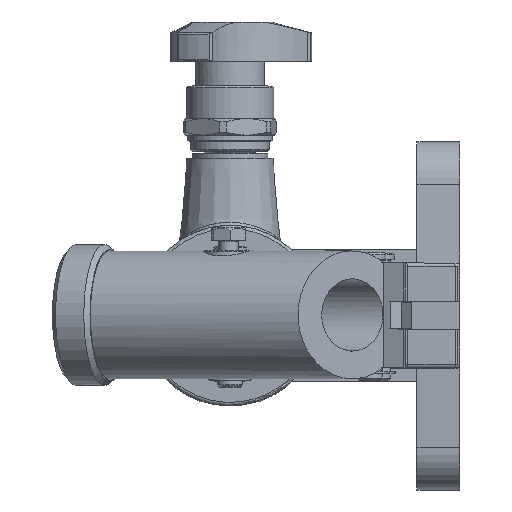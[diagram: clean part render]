
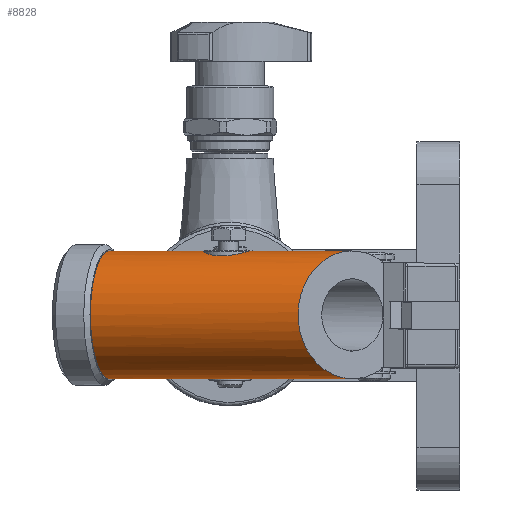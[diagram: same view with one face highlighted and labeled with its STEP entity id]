
A CAD part, top view. The second image highlights one B-rep face of the part: STEP entity #8828.
In plain terms, the highlighted cylindrical face has radius 19.48 mm (diameter 38.961 mm), a partial arc.
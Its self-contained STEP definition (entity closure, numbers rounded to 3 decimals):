
#46=ELLIPSE('',#12971,20.731,19.481);
#47=ELLIPSE('',#12976,20.731,19.481);
#48=ELLIPSE('',#12979,20.731,19.481);
#49=ELLIPSE('',#12982,22.494,19.481);
#50=ELLIPSE('',#12985,20.731,19.481);
#67=B_SPLINE_CURVE_WITH_KNOTS('',3,(#17350,#17351,#17352,#17353,#17354,
#17355),.UNSPECIFIED.,.F.,.F.,(4,1,1,4),(0.039,0.043,
0.045,0.047),.UNSPECIFIED.);
#68=B_SPLINE_CURVE_WITH_KNOTS('',3,(#17357,#17358,#17359,#17360,#17361),
 .UNSPECIFIED.,.F.,.F.,(4,1,4),(0.,0.004,0.009),
 .UNSPECIFIED.);
#69=B_SPLINE_CURVE_WITH_KNOTS('',3,(#17365,#17366,#17367,#17368,#17369),
 .UNSPECIFIED.,.F.,.F.,(4,1,4),(0.032,0.035,0.039),
 .UNSPECIFIED.);
#70=B_SPLINE_CURVE_WITH_KNOTS('',3,(#17371,#17372,#17373,#17374,#17375,
#17376,#17377),.UNSPECIFIED.,.F.,.F.,(4,1,1,1,4),(0.015,0.019,
0.024,0.028,0.032),.UNSPECIFIED.);
#71=B_SPLINE_CURVE_WITH_KNOTS('',3,(#17379,#17380,#17381,#17382,#17383),
 .UNSPECIFIED.,.F.,.F.,(4,1,4),(0.009,0.012,
0.015),.UNSPECIFIED.);
#368=CYLINDRICAL_SURFACE('',#12989,19.481);
#634=CIRCLE('',#12973,19.481);
#1552=ORIENTED_EDGE('',*,*,#3790,.F.);
#1553=ORIENTED_EDGE('',*,*,#3789,.T.);
#1554=ORIENTED_EDGE('',*,*,#3786,.T.);
#1555=ORIENTED_EDGE('',*,*,#3785,.T.);
#1556=ORIENTED_EDGE('',*,*,#3784,.F.);
#1557=ORIENTED_EDGE('',*,*,#3782,.T.);
#1558=ORIENTED_EDGE('',*,*,#3781,.F.);
#1559=ORIENTED_EDGE('',*,*,#3791,.F.);
#1560=ORIENTED_EDGE('',*,*,#3794,.F.);
#1561=ORIENTED_EDGE('',*,*,#3795,.F.);
#1562=ORIENTED_EDGE('',*,*,#3796,.F.);
#1563=ORIENTED_EDGE('',*,*,#3792,.F.);
#1564=ORIENTED_EDGE('',*,*,#3780,.F.);
#1565=ORIENTED_EDGE('',*,*,#3778,.F.);
#1566=ORIENTED_EDGE('',*,*,#3775,.T.);
#1567=ORIENTED_EDGE('',*,*,#3772,.T.);
#1568=ORIENTED_EDGE('',*,*,#3774,.T.);
#1569=ORIENTED_EDGE('',*,*,#3770,.F.);
#3770=EDGE_CURVE('',#4939,#4940,#46,.T.);
#3772=EDGE_CURVE('',#4941,#4942,#634,.T.);
#3774=EDGE_CURVE('',#4942,#4940,#5776,.F.);
#3775=EDGE_CURVE('',#4943,#4941,#5777,.T.);
#3778=EDGE_CURVE('',#4943,#4944,#47,.T.);
#3780=EDGE_CURVE('',#4944,#4946,#5781,.F.);
#3781=EDGE_CURVE('',#4946,#4945,#5782,.F.);
#3782=EDGE_CURVE('',#4947,#4945,#48,.T.);
#3784=EDGE_CURVE('',#4947,#4920,#5784,.F.);
#3785=EDGE_CURVE('',#4921,#4920,#49,.T.);
#3786=EDGE_CURVE('',#4948,#4921,#5785,.F.);
#3789=EDGE_CURVE('',#4949,#4948,#50,.T.);
#3790=EDGE_CURVE('',#4949,#4939,#5788,.T.);
#3791=EDGE_CURVE('',#4950,#4946,#67,.T.);
#3792=EDGE_CURVE('',#4946,#4951,#68,.T.);
#3794=EDGE_CURVE('',#4952,#4950,#69,.T.);
#3795=EDGE_CURVE('',#4953,#4952,#70,.T.);
#3796=EDGE_CURVE('',#4951,#4953,#71,.T.);
#4920=VERTEX_POINT('',#17248);
#4921=VERTEX_POINT('',#17250);
#4939=VERTEX_POINT('',#17307);
#4940=VERTEX_POINT('',#17309);
#4941=VERTEX_POINT('',#17313);
#4942=VERTEX_POINT('',#17314);
#4943=VERTEX_POINT('',#17319);
#4944=VERTEX_POINT('',#17323);
#4945=VERTEX_POINT('',#17327);
#4946=VERTEX_POINT('',#17329);
#4947=VERTEX_POINT('',#17333);
#4948=VERTEX_POINT('',#17341);
#4949=VERTEX_POINT('',#17345);
#4950=VERTEX_POINT('',#17356);
#4951=VERTEX_POINT('',#17362);
#4952=VERTEX_POINT('',#17370);
#4953=VERTEX_POINT('',#17378);
#5776=LINE('',#17317,#6267);
#5777=LINE('',#17318,#6268);
#5781=LINE('',#17328,#6272);
#5782=LINE('',#17330,#6273);
#5784=LINE('',#17336,#6275);
#5785=LINE('',#17340,#6276);
#5788=LINE('',#17348,#6279);
#6267=VECTOR('',#14457,1000.);
#6268=VECTOR('',#14458,1000.);
#6272=VECTOR('',#14468,1000.);
#6273=VECTOR('',#14469,1000.);
#6275=VECTOR('',#14477,1000.);
#6276=VECTOR('',#14484,1000.);
#6279=VECTOR('',#14493,1000.);
#6783=EDGE_LOOP('',(#1552,#1553,#1554,#1555,#1556,#1557,#1558,#1559,#1560,
#1561,#1562,#1563,#1564,#1565,#1566,#1567,#1568,#1569));
#7703=FACE_BOUND('',#6783,.T.);
#8828=ADVANCED_FACE('',(#7703),#368,.T.);
#12971=AXIS2_PLACEMENT_3D('',#17308,#14447,#14448);
#12973=AXIS2_PLACEMENT_3D('',#17312,#14452,#14453);
#12976=AXIS2_PLACEMENT_3D('',#17324,#14463,#14464);
#12979=AXIS2_PLACEMENT_3D('',#17332,#14472,#14473);
#12982=AXIS2_PLACEMENT_3D('',#17338,#14480,#14481);
#12985=AXIS2_PLACEMENT_3D('',#17346,#14489,#14490);
#12989=AXIS2_PLACEMENT_3D('',#17364,#14498,#14499);
#14447=DIRECTION('',(0.795,0.,0.606));
#14448=DIRECTION('',(-0.606,0.,0.795));
#14452=DIRECTION('',(0.955,0.,0.298));
#14453=DIRECTION('',(-0.298,0.,0.955));
#14457=DIRECTION('',(-0.955,0.,-0.298));
#14458=DIRECTION('',(-0.955,0.,-0.298));
#14463=DIRECTION('',(0.795,0.,0.606));
#14464=DIRECTION('',(-0.606,0.,0.795));
#14468=DIRECTION('',(-0.955,0.,-0.298));
#14469=DIRECTION('',(-0.955,0.,-0.298));
#14472=DIRECTION('',(0.999,0.,-0.047));
#14473=DIRECTION('',(-0.047,0.,-0.999));
#14477=DIRECTION('',(-0.955,0.,-0.298));
#14480=DIRECTION('',(-0.678,0.,-0.735));
#14481=DIRECTION('',(-0.735,0.,0.678));
#14484=DIRECTION('',(-0.955,0.,-0.298));
#14489=DIRECTION('',(0.999,0.,-0.047));
#14490=DIRECTION('',(-0.047,0.,-0.999));
#14493=DIRECTION('',(-0.955,0.,-0.298));
#14498=DIRECTION('',(-0.955,0.,-0.298));
#14499=DIRECTION('',(0.298,0.,-0.955));
#17248=CARTESIAN_POINT('',(46.737,15.984,234.121));
#17250=CARTESIAN_POINT('',(46.737,-15.984,234.121));
#17307=CARTESIAN_POINT('',(-33.387,-17.982,212.962));
#17308=CARTESIAN_POINT('',(-38.221,0.,219.304));
#17309=CARTESIAN_POINT('',(-26.621,-7.492,204.084));
#17312=CARTESIAN_POINT('',(-36.691,0.,219.78));
#17313=CARTESIAN_POINT('',(-31.34,7.493,202.613));
#17314=CARTESIAN_POINT('',(-31.34,-7.492,202.613));
#17317=CARTESIAN_POINT('',(48.774,-7.492,227.585));
#17318=CARTESIAN_POINT('',(48.774,7.493,227.585));
#17319=CARTESIAN_POINT('',(-26.621,7.493,204.084));
#17323=CARTESIAN_POINT('',(-33.387,17.982,212.962));
#17324=CARTESIAN_POINT('',(-38.221,0.,219.304));
#17327=CARTESIAN_POINT('',(15.496,17.982,228.199));
#17328=CARTESIAN_POINT('',(45.653,17.982,237.599));
#17329=CARTESIAN_POINT('',(1.781,17.982,223.924));
#17330=CARTESIAN_POINT('',(45.653,17.982,237.599));
#17332=CARTESIAN_POINT('',(15.87,0.,236.164));
#17333=CARTESIAN_POINT('',(15.314,15.984,224.326));
#17336=CARTESIAN_POINT('',(46.737,15.984,234.121));
#17338=CARTESIAN_POINT('',(37.285,0.,242.839));
#17340=CARTESIAN_POINT('',(46.737,-15.984,234.121));
#17341=CARTESIAN_POINT('',(15.314,-15.984,224.326));
#17345=CARTESIAN_POINT('',(15.496,-17.982,228.199));
#17346=CARTESIAN_POINT('',(15.87,0.,236.164));
#17348=CARTESIAN_POINT('',(45.653,-17.982,237.599));
#17350=CARTESIAN_POINT('',(6.984,19.231,230.137));
#17351=CARTESIAN_POINT('',(6.805,19.021,228.721));
#17352=CARTESIAN_POINT('',(5.924,18.538,226.697));
#17353=CARTESIAN_POINT('',(3.772,18.071,224.763));
#17354=CARTESIAN_POINT('',(2.477,17.982,224.141));
#17355=CARTESIAN_POINT('',(1.781,17.982,223.924));
#17356=CARTESIAN_POINT('',(6.984,19.231,230.137));
#17357=CARTESIAN_POINT('',(1.781,17.982,223.924));
#17358=CARTESIAN_POINT('',(0.388,17.982,223.49));
#17359=CARTESIAN_POINT('',(-2.575,18.372,223.464));
#17360=CARTESIAN_POINT('',(-5.084,19.022,225.022));
#17361=CARTESIAN_POINT('',(-6.032,19.231,226.08));
#17362=CARTESIAN_POINT('',(-6.032,19.231,226.08));
#17364=CARTESIAN_POINT('',(43.423,0.,244.752));
#17365=CARTESIAN_POINT('',(5.134,19.231,236.074));
#17366=CARTESIAN_POINT('',(5.847,19.388,235.278));
#17367=CARTESIAN_POINT('',(6.926,19.574,233.38));
#17368=CARTESIAN_POINT('',(7.117,19.387,231.189));
#17369=CARTESIAN_POINT('',(6.984,19.231,230.137));
#17370=CARTESIAN_POINT('',(5.134,19.231,236.074));
#17371=CARTESIAN_POINT('',(-7.882,19.231,232.017));
#17372=CARTESIAN_POINT('',(-7.702,19.02,233.442));
#17373=CARTESIAN_POINT('',(-6.538,18.374,236.118));
#17374=CARTESIAN_POINT('',(-2.814,17.786,238.642));
#17375=CARTESIAN_POINT('',(1.698,18.373,238.686));
#17376=CARTESIAN_POINT('',(4.175,19.019,237.146));
#17377=CARTESIAN_POINT('',(5.134,19.231,236.074));
#17378=CARTESIAN_POINT('',(-7.882,19.231,232.017));
#17379=CARTESIAN_POINT('',(-6.032,19.231,226.08));
#17380=CARTESIAN_POINT('',(-6.735,19.386,226.866));
#17381=CARTESIAN_POINT('',(-7.825,19.574,228.773));
#17382=CARTESIAN_POINT('',(-8.016,19.388,230.959));
#17383=CARTESIAN_POINT('',(-7.882,19.231,232.017));
